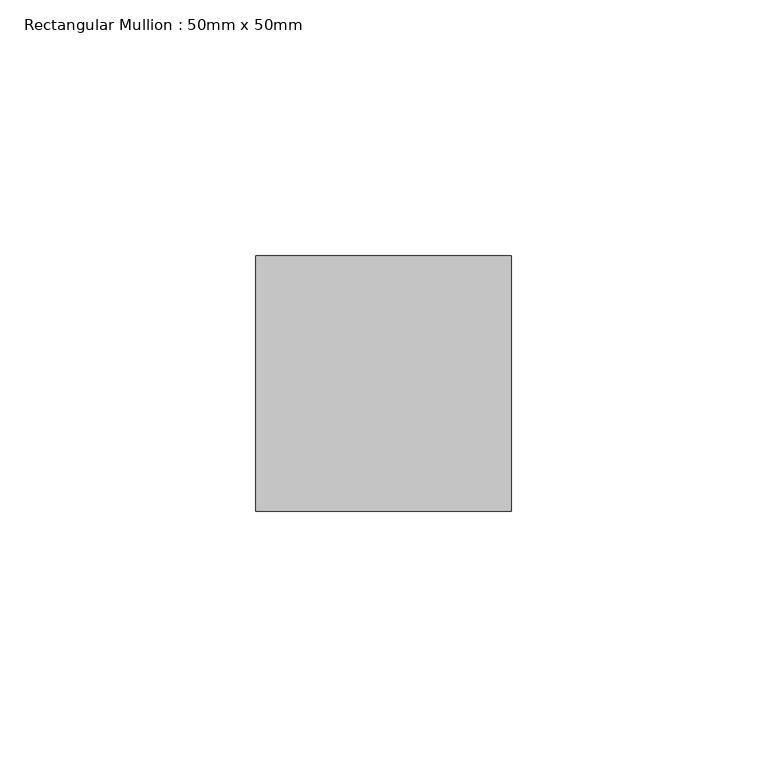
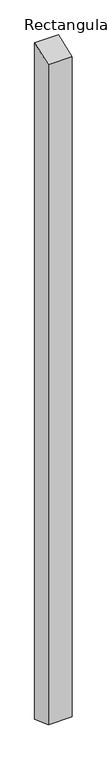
"""IFC4 building model written with IfcOpenShell, lengths in millimetres: member geometry, Rectangular Mullion : 50mm x 50mm."""

from ifc_helpers import new_model, si_unit, frame, origin, place, context, project, spatial, polyline, outline, extrude, source, transform, mapped, element, save


def rectangular_mullion_50mm_x_50mm_2e72de19(model_context):
    return source(origin(), model_context, "Body", "SweptSolid", [
        extrude(outline(polyline([(-25.0, -9.3435582), (25.0, 9.3435582), (25.0, -1492.8847632), (-25.0, -1474.1976467), (-25.0, -9.3435582)])), frame((-50.0, 0.0, 0.0), z_axis=(1.0, 0.0, 0.0), x_axis=(0.0, 1.0, 0.0)), (0.0, 0.0, 1.0), 50.0),
    ])


if __name__ == "__main__":
    model = new_model("IFC4")
    model_context = context("Model", 3, world=origin())
    ifc_project = project(units=[si_unit("LENGTHUNIT", "METRE", prefix="MILLI")], contexts=[model_context])
    site = spatial("IfcSite", under=ifc_project)
    building = spatial("IfcBuilding", under=site)
    placement = place(None, origin())
    rectangular_mullion_50mm_x_50mm_shape = rectangular_mullion_50mm_x_50mm_2e72de19(model_context)
    element("IfcMember", 1, ObjectType="Rectangular Mullion : 50mm x 50mm", at=placement, inside=building, context=model_context, shape_type="MappedRepresentation", body=[
        mapped(rectangular_mullion_50mm_x_50mm_shape, transform((0.0, 0.0, 0.0), x_axis=(1.0, 0.0, 0.0), y_axis=(0.0, 1.0, 0.0), z_axis=(0.0, 0.0, 1.0))),
    ])
    save(model, "model.ifc")
